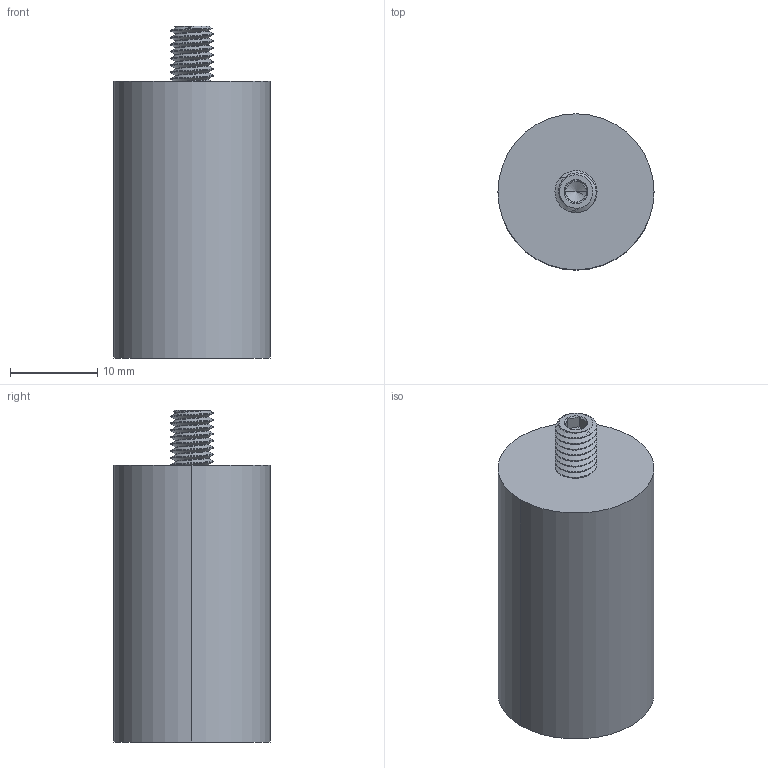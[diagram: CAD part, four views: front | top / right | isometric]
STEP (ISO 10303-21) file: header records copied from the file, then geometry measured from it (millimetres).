
FILE_DESCRIPTION (( 'STEP AP203' ), '1' );
FILE_NAME ('FDPCK-.5PULTRUD-STUD-10-32-S.step', '2019-09-11T18:22:16', ( 'ydmin' ), ( '' ), 'SwSTEP 2.0', 'SolidWorks 2017', '' );
FILE_SCHEMA (( 'CONFIG_CONTROL_DESIGN' ));
Length unit declared in the file: inch
Products named in the file (1): FDPCK-.5PULTRUD-STUD-10-32-S
Bounding box: 17.91 x 17.91 x 38.1 mm (x, y, z)
Volume: 5395.9 mm3; surface area: 3670 mm2
Topology: 2 solids, 2 shells, 88 faces, 228 edges, 141 vertices
Faces by surface type: cylinder 52, cone 18, plane 15, bspline 3
Entity records: 6416 total; most frequent: CARTESIAN_POINT 4518, ORIENTED_EDGE 448, DIRECTION 316, EDGE_CURVE 224, VERTEX_POINT 141, AXIS2_PLACEMENT_3D 118, EDGE_LOOP 91, ADVANCED_FACE 88
